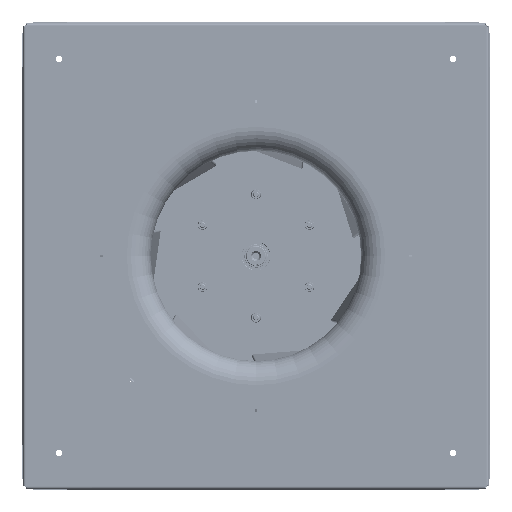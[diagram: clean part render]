
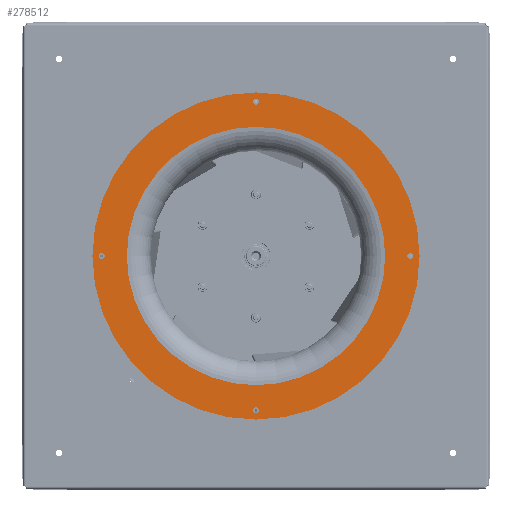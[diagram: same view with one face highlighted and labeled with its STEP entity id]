
A CAD part, front view. The second image highlights one B-rep face of the part: STEP entity #278512.
In plain terms, the highlighted planar face has unit normal (0, -1, 0) as drawn and (0, 0, 1) by its records, which use the part's own axes.
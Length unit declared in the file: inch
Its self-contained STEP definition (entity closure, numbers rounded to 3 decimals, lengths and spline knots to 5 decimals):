
#853 = FACE_BOUND ( 'NONE', #305853, .T. ) ;
#7254 = EDGE_CURVE ( 'NONE', #137514, #283596, #257266, .T. ) ;
#8141 = AXIS2_PLACEMENT_3D ( 'NONE', #292546, #246748, #8600 ) ;
#8600 = DIRECTION ( 'NONE',  ( 0., 1., 0. ) ) ;
#10521 = DIRECTION ( 'NONE',  ( 0., -1., 0. ) ) ;
#14468 = CARTESIAN_POINT ( 'NONE',  ( -7.21457, 0., 0. ) ) ;
#14821 = CARTESIAN_POINT ( 'NONE',  ( 8.62205, 0., 0. ) ) ;
#17405 = EDGE_LOOP ( 'NONE', ( #282967, #187326 ) ) ;
#18036 = AXIS2_PLACEMENT_3D ( 'NONE', #307183, #334140, #210701 ) ;
#18662 = CARTESIAN_POINT ( 'NONE',  ( 0., -8.62205, 0. ) ) ;
#19121 = DIRECTION ( 'NONE',  ( 0., 0., 1. ) ) ;
#26049 = VERTEX_POINT ( 'NONE', #205014 ) ;
#36167 = CARTESIAN_POINT ( 'NONE',  ( 0., 9.13386, 0. ) ) ;
#42669 = CARTESIAN_POINT ( 'NONE',  ( 0., 0., 0. ) ) ;
#43493 = CARTESIAN_POINT ( 'NONE',  ( 0., 0., 0. ) ) ;
#43682 = AXIS2_PLACEMENT_3D ( 'NONE', #42669, #269266, #88414 ) ;
#43857 = EDGE_LOOP ( 'NONE', ( #152434, #202194 ) ) ;
#45239 = DIRECTION ( 'NONE',  ( 0., 0., 1. ) ) ;
#51099 = CARTESIAN_POINT ( 'NONE',  ( -8.62205, 0., 0. ) ) ;
#55775 = DIRECTION ( 'NONE',  ( 0., 0., 1. ) ) ;
#56895 = EDGE_LOOP ( 'NONE', ( #280316, #310138 ) ) ;
#63284 = VERTEX_POINT ( 'NONE', #95204 ) ;
#69618 = CARTESIAN_POINT ( 'NONE',  ( 9.13386, 0., 0. ) ) ;
#71025 = DIRECTION ( 'NONE',  ( -1., 0., 0. ) ) ;
#78085 = DIRECTION ( 'NONE',  ( -1., 0., 0. ) ) ;
#78946 = EDGE_CURVE ( 'NONE', #333024, #63284, #290495, .T. ) ;
#79576 = AXIS2_PLACEMENT_3D ( 'NONE', #43493, #240182, #111697 ) ;
#86649 = VERTEX_POINT ( 'NONE', #14468 ) ;
#86878 = DIRECTION ( 'NONE',  ( 0., 0., -1. ) ) ;
#88414 = DIRECTION ( 'NONE',  ( 1., 0., 0. ) ) ;
#90464 = CIRCLE ( 'NONE', #155203, 0.16732 ) ;
#94314 = EDGE_CURVE ( 'NONE', #26049, #208759, #324503, .T. ) ;
#95204 = CARTESIAN_POINT ( 'NONE',  ( 8.62205, -0.16732, 0. ) ) ;
#95964 = AXIS2_PLACEMENT_3D ( 'NONE', #18662, #226533, #71025 ) ;
#100155 = DIRECTION ( 'NONE',  ( 0., 1., 0. ) ) ;
#101779 = CARTESIAN_POINT ( 'NONE',  ( 0., -8.62205, 0. ) ) ;
#103864 = ORIENTED_EDGE ( 'NONE', *, *, #215760, .F. ) ;
#103953 = FACE_BOUND ( 'NONE', #291692, .T. ) ;
#104683 = CIRCLE ( 'NONE', #293596, 0.16732 ) ;
#106176 = AXIS2_PLACEMENT_3D ( 'NONE', #36167, #86878, #315107 ) ;
#106656 = CARTESIAN_POINT ( 'NONE',  ( -8.62205, -0.16732, 0. ) ) ;
#111697 = DIRECTION ( 'NONE',  ( 1., 0., 0. ) ) ;
#115301 = CIRCLE ( 'NONE', #18036, 0.16732 ) ;
#116343 = VERTEX_POINT ( 'NONE', #188602 ) ;
#120289 = CARTESIAN_POINT ( 'NONE',  ( 8.62205, 0., 0. ) ) ;
#130831 = EDGE_CURVE ( 'NONE', #116343, #320778, #90464, .T. ) ;
#137514 = VERTEX_POINT ( 'NONE', #289717 ) ;
#144037 = AXIS2_PLACEMENT_3D ( 'NONE', #101779, #258926, #78085 ) ;
#145798 = CIRCLE ( 'NONE', #221281, 0.16732 ) ;
#147604 = DIRECTION ( 'NONE',  ( 1., 0., 0. ) ) ;
#150663 = EDGE_CURVE ( 'NONE', #227729, #314654, #104683, .T. ) ;
#152434 = ORIENTED_EDGE ( 'NONE', *, *, #156793, .F. ) ;
#154831 = ORIENTED_EDGE ( 'NONE', *, *, #78946, .F. ) ;
#155203 = AXIS2_PLACEMENT_3D ( 'NONE', #300035, #178280, #274684 ) ;
#156793 = EDGE_CURVE ( 'NONE', #314654, #227729, #245510, .T. ) ;
#167979 = CARTESIAN_POINT ( 'NONE',  ( 0., 0., 0. ) ) ;
#178280 = DIRECTION ( 'NONE',  ( 0., 0., 1. ) ) ;
#184255 = CARTESIAN_POINT ( 'NONE',  ( 0., 0., 0. ) ) ;
#187326 = ORIENTED_EDGE ( 'NONE', *, *, #94314, .T. ) ;
#188602 = CARTESIAN_POINT ( 'NONE',  ( -0.16732, 8.62205, 0. ) ) ;
#193045 = ORIENTED_EDGE ( 'NONE', *, *, #300097, .F. ) ;
#197543 = ORIENTED_EDGE ( 'NONE', *, *, #130831, .F. ) ;
#200513 = EDGE_CURVE ( 'NONE', #283608, #86649, #286968, .T. ) ;
#202194 = ORIENTED_EDGE ( 'NONE', *, *, #150663, .F. ) ;
#205014 = CARTESIAN_POINT ( 'NONE',  ( -9.13386, 0., 0. ) ) ;
#207057 = FACE_BOUND ( 'NONE', #273524, .T. ) ;
#208759 = VERTEX_POINT ( 'NONE', #69618 ) ;
#210701 = DIRECTION ( 'NONE',  ( 1., 0., 0. ) ) ;
#213675 = EDGE_CURVE ( 'NONE', #86649, #283608, #311717, .T. ) ;
#215760 = EDGE_CURVE ( 'NONE', #283596, #137514, #274284, .T. ) ;
#221281 = AXIS2_PLACEMENT_3D ( 'NONE', #120289, #270777, #10521 ) ;
#221536 = CARTESIAN_POINT ( 'NONE',  ( 8.62205, 0.16732, 0. ) ) ;
#226533 = DIRECTION ( 'NONE',  ( 0., 0., 1. ) ) ;
#227729 = VERTEX_POINT ( 'NONE', #106656 ) ;
#229103 = FACE_BOUND ( 'NONE', #43857, .T. ) ;
#236475 = EDGE_CURVE ( 'NONE', #63284, #333024, #145798, .T. ) ;
#240182 = DIRECTION ( 'NONE',  ( 0., 0., 1. ) ) ;
#242001 = AXIS2_PLACEMENT_3D ( 'NONE', #14821, #45239, #273432 ) ;
#245510 = CIRCLE ( 'NONE', #8141, 0.16732 ) ;
#245586 = EDGE_CURVE ( 'NONE', #208759, #26049, #285609, .T. ) ;
#246748 = DIRECTION ( 'NONE',  ( 0., 0., 1. ) ) ;
#251424 = ORIENTED_EDGE ( 'NONE', *, *, #7254, .F. ) ;
#253147 = CARTESIAN_POINT ( 'NONE',  ( 0.16732, 8.62205, 0. ) ) ;
#257266 = CIRCLE ( 'NONE', #144037, 0.16732 ) ;
#257762 = FACE_BOUND ( 'NONE', #56895, .T. ) ;
#258926 = DIRECTION ( 'NONE',  ( 0., 0., 1. ) ) ;
#261979 = DIRECTION ( 'NONE',  ( 1., 0., 0. ) ) ;
#269266 = DIRECTION ( 'NONE',  ( 0., 0., 1. ) ) ;
#270777 = DIRECTION ( 'NONE',  ( 0., 0., 1. ) ) ;
#271075 = CARTESIAN_POINT ( 'NONE',  ( 7.21457, 0., 0. ) ) ;
#272727 = CARTESIAN_POINT ( 'NONE',  ( 0.16732, -8.62205, 0. ) ) ;
#273432 = DIRECTION ( 'NONE',  ( 0., -1., 0. ) ) ;
#273524 = EDGE_LOOP ( 'NONE', ( #330598, #154831 ) ) ;
#274284 = CIRCLE ( 'NONE', #95964, 0.16732 ) ;
#274684 = DIRECTION ( 'NONE',  ( 1., 0., 0. ) ) ;
#278512 = ADVANCED_FACE ( 'NONE', ( #257762, #853, #229103, #103953, #207057, #332140 ), #310161, .F. ) ;
#280316 = ORIENTED_EDGE ( 'NONE', *, *, #200513, .F. ) ;
#280323 = AXIS2_PLACEMENT_3D ( 'NONE', #184255, #55775, #261979 ) ;
#282967 = ORIENTED_EDGE ( 'NONE', *, *, #245586, .T. ) ;
#283596 = VERTEX_POINT ( 'NONE', #272727 ) ;
#283608 = VERTEX_POINT ( 'NONE', #271075 ) ;
#285609 = CIRCLE ( 'NONE', #280323, 9.13386 ) ;
#286968 = CIRCLE ( 'NONE', #292266, 7.21457 ) ;
#289717 = CARTESIAN_POINT ( 'NONE',  ( -0.16732, -8.62205, 0. ) ) ;
#290495 = CIRCLE ( 'NONE', #242001, 0.16732 ) ;
#291692 = EDGE_LOOP ( 'NONE', ( #251424, #103864 ) ) ;
#292266 = AXIS2_PLACEMENT_3D ( 'NONE', #167979, #19121, #147604 ) ;
#292546 = CARTESIAN_POINT ( 'NONE',  ( -8.62205, 0., 0. ) ) ;
#293596 = AXIS2_PLACEMENT_3D ( 'NONE', #51099, #309692, #100155 ) ;
#300035 = CARTESIAN_POINT ( 'NONE',  ( 0., 8.62205, 0. ) ) ;
#300097 = EDGE_CURVE ( 'NONE', #320778, #116343, #115301, .T. ) ;
#305853 = EDGE_LOOP ( 'NONE', ( #193045, #197543 ) ) ;
#307183 = CARTESIAN_POINT ( 'NONE',  ( 0., 8.62205, 0. ) ) ;
#309692 = DIRECTION ( 'NONE',  ( 0., 0., 1. ) ) ;
#310138 = ORIENTED_EDGE ( 'NONE', *, *, #213675, .F. ) ;
#310161 = PLANE ( 'NONE',  #106176 ) ;
#311717 = CIRCLE ( 'NONE', #79576, 7.21457 ) ;
#314654 = VERTEX_POINT ( 'NONE', #328555 ) ;
#315107 = DIRECTION ( 'NONE',  ( 0., -1., 0. ) ) ;
#320778 = VERTEX_POINT ( 'NONE', #253147 ) ;
#324503 = CIRCLE ( 'NONE', #43682, 9.13386 ) ;
#328555 = CARTESIAN_POINT ( 'NONE',  ( -8.62205, 0.16732, 0. ) ) ;
#330598 = ORIENTED_EDGE ( 'NONE', *, *, #236475, .F. ) ;
#332140 = FACE_OUTER_BOUND ( 'NONE', #17405, .T. ) ;
#333024 = VERTEX_POINT ( 'NONE', #221536 ) ;
#334140 = DIRECTION ( 'NONE',  ( 0., 0., 1. ) ) ;
